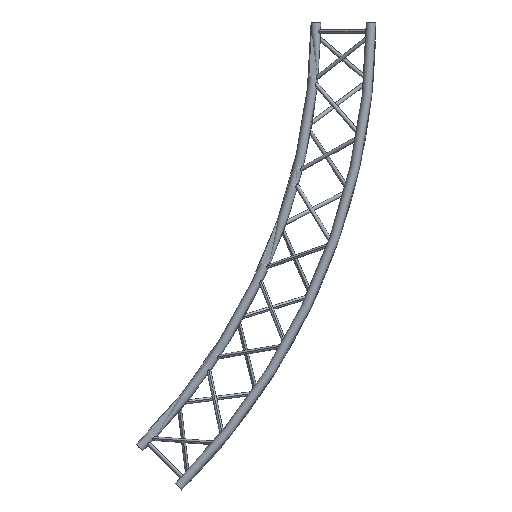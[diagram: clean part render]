
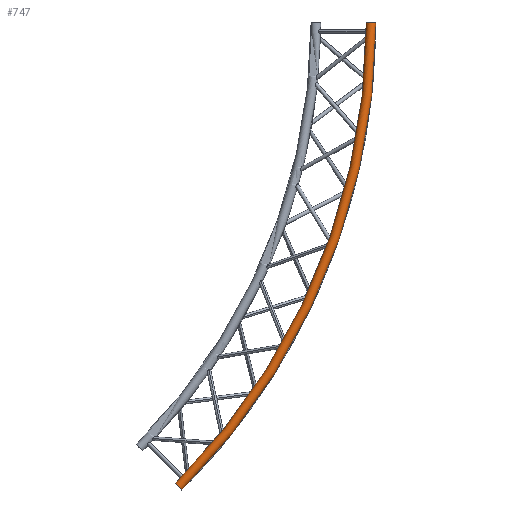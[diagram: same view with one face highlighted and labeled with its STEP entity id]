
A CAD part, front view. The second image highlights one B-rep face of the part: STEP entity #747.
In plain terms, the highlighted toroidal (fillet/blend) face has major radius 3475 mm and minor radius 25 mm.
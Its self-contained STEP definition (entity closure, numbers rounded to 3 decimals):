
#717 = VERTEX_POINT ( 'NONE', #4601 ) ;
#747 = ADVANCED_FACE ( 'NONE', ( #4632 ), #4488, .T. ) ;
#754 = EDGE_LOOP ( 'NONE', ( #942, #1282, #1330, #1247 ) ) ;
#942 = ORIENTED_EDGE ( 'NONE', *, *, #959, .T. ) ;
#959 = EDGE_CURVE ( 'NONE', #971, #717, #4720, .T. ) ;
#971 = VERTEX_POINT ( 'NONE', #4716 ) ;
#1247 = ORIENTED_EDGE ( 'NONE', *, *, #1248, .F. ) ;
#1248 = EDGE_CURVE ( 'NONE', #971, #1371, #4898, .T. ) ;
#1270 = VERTEX_POINT ( 'NONE', #4939 ) ;
#1282 = ORIENTED_EDGE ( 'NONE', *, *, #1284, .T. ) ;
#1284 = EDGE_CURVE ( 'NONE', #717, #1270, #4949, .T. ) ;
#1285 = EDGE_CURVE ( 'NONE', #1371, #1270, #4973, .T. ) ;
#1330 = ORIENTED_EDGE ( 'NONE', *, *, #1285, .F. ) ;
#1371 = VERTEX_POINT ( 'NONE', #4994 ) ;
#4484 = DIRECTION ( 'NONE',  ( 0., 0., -1. ) ) ;
#4485 = DIRECTION ( 'NONE',  ( 0., -1., 0. ) ) ;
#4486 = AXIS2_PLACEMENT_3D ( 'NONE', #4487, #4485, #4484 ) ;
#4487 = CARTESIAN_POINT ( 'NONE',  ( 0., -168.5, 0. ) ) ;
#4488 = TOROIDAL_SURFACE ( 'NONE', #4486, 3475., 25. ) ;
#4601 = CARTESIAN_POINT ( 'NONE',  ( 2474.874, -168.5, -2474.874 ) ) ;
#4632 = FACE_OUTER_BOUND ( 'NONE', #754, .T. ) ;
#4705 = CARTESIAN_POINT ( 'NONE',  ( 2457.196, -168.5, -2457.196 ) ) ;
#4716 = CARTESIAN_POINT ( 'NONE',  ( 2439.518, -168.5, -2439.518 ) ) ;
#4717 = DIRECTION ( 'NONE',  ( 0.707, 0., -0.707 ) ) ;
#4718 = DIRECTION ( 'NONE',  ( 0.707, 0., 0.707 ) ) ;
#4719 = AXIS2_PLACEMENT_3D ( 'NONE', #4705, #4718, #4717 ) ;
#4720 = CIRCLE ( 'NONE', #4719, 25. ) ;
#4895 = DIRECTION ( 'NONE',  ( 0., 0., -1. ) ) ;
#4896 = DIRECTION ( 'NONE',  ( 0., -1., 0. ) ) ;
#4897 = AXIS2_PLACEMENT_3D ( 'NONE', #4903, #4896, #4895 ) ;
#4898 = CIRCLE ( 'NONE', #4897, 3450. ) ;
#4903 = CARTESIAN_POINT ( 'NONE',  ( 0., -168.5, 0. ) ) ;
#4939 = CARTESIAN_POINT ( 'NONE',  ( 3500., -168.5, 0. ) ) ;
#4949 = CIRCLE ( 'NONE', #5024, 3500. ) ;
#4971 = DIRECTION ( 'NONE',  ( 0., 0., 1. ) ) ;
#4972 = AXIS2_PLACEMENT_3D ( 'NONE', #5106, #4971, #4995 ) ;
#4973 = CIRCLE ( 'NONE', #4972, 25. ) ;
#4994 = CARTESIAN_POINT ( 'NONE',  ( 3450., -168.5, 0. ) ) ;
#4995 = DIRECTION ( 'NONE',  ( 1., 0., 0. ) ) ;
#5022 = DIRECTION ( 'NONE',  ( 0., 0., -1. ) ) ;
#5023 = DIRECTION ( 'NONE',  ( 0., -1., 0. ) ) ;
#5024 = AXIS2_PLACEMENT_3D ( 'NONE', #5139, #5023, #5022 ) ;
#5106 = CARTESIAN_POINT ( 'NONE',  ( 3475., -168.5, 0. ) ) ;
#5139 = CARTESIAN_POINT ( 'NONE',  ( 0., -168.5, 0. ) ) ;
